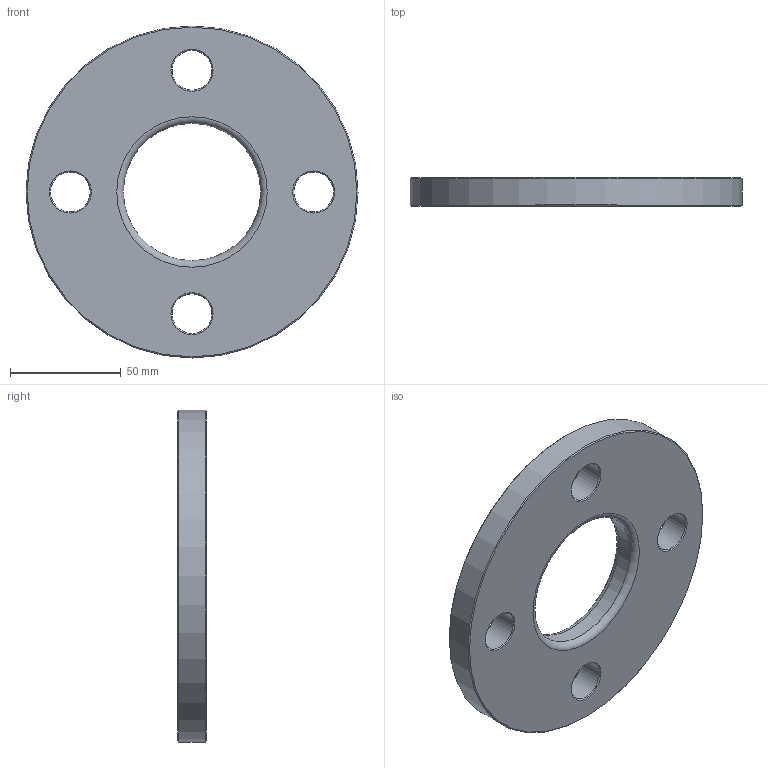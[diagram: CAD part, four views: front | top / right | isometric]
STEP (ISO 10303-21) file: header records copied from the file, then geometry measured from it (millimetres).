
FILE_DESCRIPTION(/* description */ ('Unknown'),/* implementation_level */ '2;1');
FILE_NAME(/* name */ 'FZ050C',/* time_stamp */ '2021-03-15T11:43:30+01:00',/* author */ ('Unknown'),/* organization */ ('Unknown'),/* preprocessor_version */ 'ST-DEVELOPER v16.7',/* originating_system */ 'Solid Edge',/* authorisation */ 'Unknown');
FILE_SCHEMA (('AUTOMOTIVE_DESIGN {1 0 10303 214 3 1 1}'));
Length unit declared in the file: millimetre
Products named in the file (1): FZ050C
Bounding box: 150 x 13 x 150 mm (x, y, z)
Volume: 176304.9 mm3; surface area: 37967.6 mm2
Topology: 1 solids, 1 shells, 20 faces, 54 edges, 36 vertices
Faces by surface type: cone 10, cylinder 6, plane 2, torus 2
Full cylindrical faces by diameter (mm): 18 x4, 62 x1, 150 x1
Entity records: 494 total; most frequent: DIRECTION 90, CARTESIAN_POINT 69, ORIENTED_EDGE 48, EDGE_LOOP 48, FACE_BOUND 48, AXIS2_PLACEMENT_3D 45, EDGE_CURVE 24, VERTEX_POINT 24
